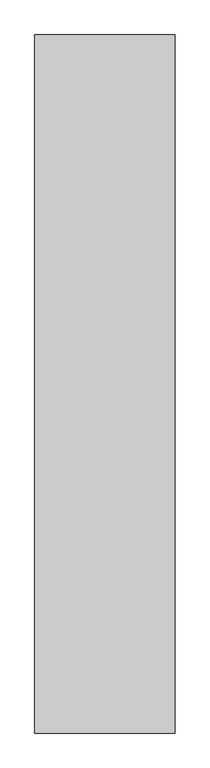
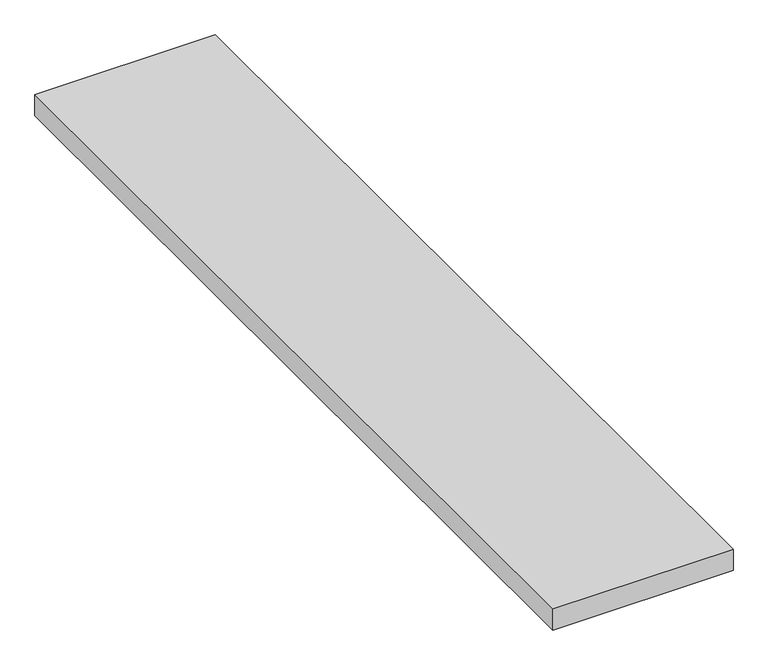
"""IFC4 building model written with IfcOpenShell, lengths in millimetres: proxy geometry, Água2 : Água."""

from ifc_helpers import new_model, si_unit, frame, origin, place, context, project, spatial, polyline, outline, extrude, source, transform, mapped, element, save


def generic_models_2391cbb6(model_context):
    return source(origin(), model_context, "Body", "SweptSolid", [
        extrude(outline(polyline([(-8802.9370573, -5927.608239), (-8300.9370573, -5927.608239), (-8300.9370573, -8427.608239), (-8802.9370573, -8427.608239), (-8802.9370573, -5927.608239)])), frame((0.0, 0.0, -80.0), z_axis=(0.0, 0.0, 1.0), x_axis=(1.0, 0.0, 0.0)), (0.0, 0.0, 1.0), 62.8828431),
    ])


if __name__ == "__main__":
    model = new_model("IFC4")
    model_context = context("Model", 3, world=origin())
    ifc_project = project(units=[si_unit("LENGTHUNIT", "METRE", prefix="MILLI")], contexts=[model_context])
    site = spatial("IfcSite", under=ifc_project)
    building = spatial("IfcBuilding", under=site)
    placement = place(None, origin())
    generic_models_shape = generic_models_2391cbb6(model_context)
    element("IfcBuildingElementProxy", 1, Name="Água2 : Água", ObjectType="Água2 : Água", at=placement, inside=building, context=model_context, shape_type="MappedRepresentation", body=[
        mapped(generic_models_shape, transform((0.0, 0.0, 0.0), x_axis=(1.0, 0.0, 0.0), y_axis=(0.0, 1.0, 0.0), z_axis=(0.0, 0.0, 1.0))),
    ])
    save(model, "model.ifc")
